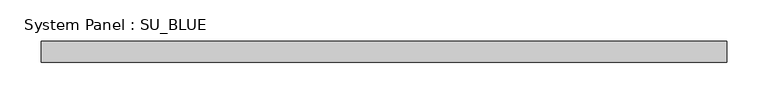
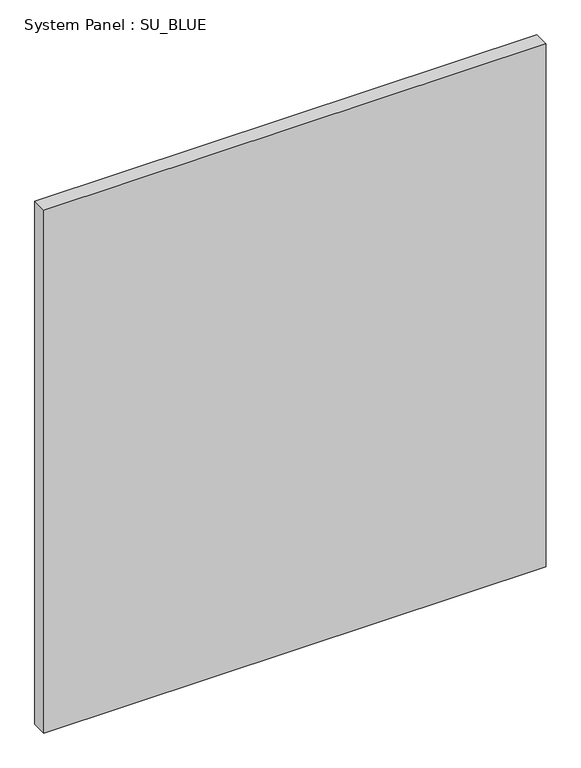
"""IFC4 building model written with IfcOpenShell, lengths in millimetres: plate geometry, System Panel : SU_BLUE."""

from ifc_helpers import new_model, si_unit, origin, origin_with_axes, place, context, project, spatial, polyline, outline, extrude, source, transform, mapped, element, save


def system_panel_su_blue_184484ff(model_context):
    return source(origin(), model_context, "Body", "SweptSolid", [
        extrude(outline(polyline([(415.3596123, 19.05), (-415.3596123, 19.05), (-415.3596123, 44.45), (415.3596123, 44.45), (415.3596123, 19.05)])), origin_with_axes(), (0.0, 0.0, 1.0), 914.4),
    ])


if __name__ == "__main__":
    model = new_model("IFC4")
    model_context = context("Model", 3, world=origin())
    ifc_project = project(units=[si_unit("LENGTHUNIT", "METRE", prefix="MILLI")], contexts=[model_context])
    site = spatial("IfcSite", under=ifc_project)
    building = spatial("IfcBuilding", under=site)
    placement = place(None, origin())
    system_panel_su_blue_shape = system_panel_su_blue_184484ff(model_context)
    element("IfcPlate", 1, ObjectType="System Panel : SU_BLUE", at=placement, inside=building, context=model_context, shape_type="MappedRepresentation", body=[
        mapped(system_panel_su_blue_shape, transform((0.0, 0.0, 0.0), x_axis=(1.0, 0.0, 0.0), y_axis=(0.0, 1.0, 0.0), z_axis=(0.0, 0.0, 1.0))),
    ])
    save(model, "model.ifc")
